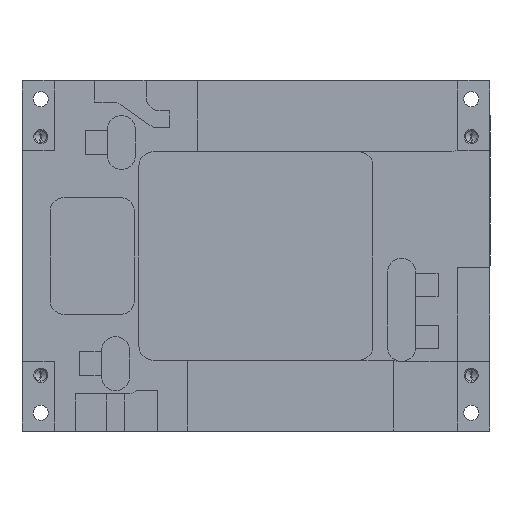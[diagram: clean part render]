
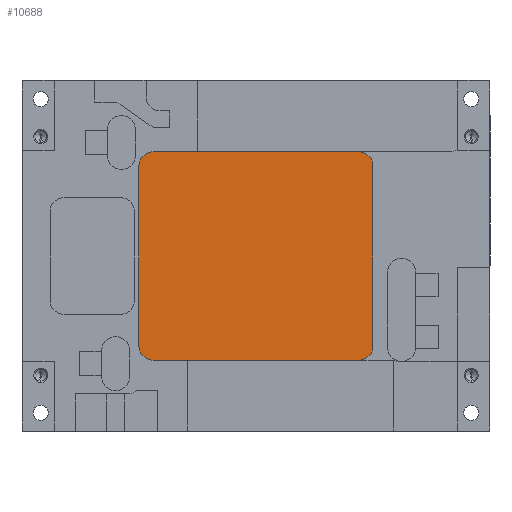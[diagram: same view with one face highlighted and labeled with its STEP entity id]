
A CAD part, left-side view. The second image highlights one B-rep face of the part: STEP entity #10688.
In plain terms, the highlighted planar face has unit normal (-1, 0, 0).
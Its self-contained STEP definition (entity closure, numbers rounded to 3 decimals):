
#4 = CARTESIAN_POINT ( 'NONE',  ( 4.01, 22., -22.25 ) ) ;
#42 = VERTEX_POINT ( 'NONE', #13604 ) ;
#60 = ORIENTED_EDGE ( 'NONE', *, *, #3748, .T. ) ;
#84 = VECTOR ( 'NONE', #10951, 1000. ) ;
#124 = EDGE_LOOP ( 'NONE', ( #510, #60, #10824, #11430, #18143, #17726, #8564, #6653 ) ) ;
#191 = CARTESIAN_POINT ( 'NONE',  ( 4.01, 25., 19.25 ) ) ;
#355 = EDGE_CURVE ( 'NONE', #7128, #18695, #5312, .T. ) ;
#510 = ORIENTED_EDGE ( 'NONE', *, *, #10940, .T. ) ;
#956 = CIRCLE ( 'NONE', #15590, 3. ) ;
#984 = CARTESIAN_POINT ( 'NONE',  ( 4.01, 25., -22.25 ) ) ;
#1902 = DIRECTION ( 'NONE',  ( -1., 0., 0. ) ) ;
#1960 = EDGE_CURVE ( 'NONE', #14066, #7128, #10593, .T. ) ;
#3083 = DIRECTION ( 'NONE',  ( 0., -1., 0. ) ) ;
#3455 = AXIS2_PLACEMENT_3D ( 'NONE', #6827, #18417, #18308 ) ;
#3475 = DIRECTION ( 'NONE',  ( 0., 0., 1. ) ) ;
#3625 = DIRECTION ( 'NONE',  ( -1., 0., 0. ) ) ;
#3748 = EDGE_CURVE ( 'NONE', #10258, #9734, #16595, .T. ) ;
#3941 = DIRECTION ( 'NONE',  ( -1., 0., 0. ) ) ;
#4466 = CARTESIAN_POINT ( 'NONE',  ( 4.01, 25., -19.25 ) ) ;
#4480 = EDGE_CURVE ( 'NONE', #9068, #42, #13569, .T. ) ;
#4645 = CARTESIAN_POINT ( 'NONE',  ( 4.01, -22., 22.25 ) ) ;
#5312 = LINE ( 'NONE', #984, #84 ) ;
#5693 = EDGE_CURVE ( 'NONE', #18695, #9068, #6147, .T. ) ;
#6147 = CIRCLE ( 'NONE', #8539, 3. ) ;
#6653 = ORIENTED_EDGE ( 'NONE', *, *, #15987, .T. ) ;
#6827 = CARTESIAN_POINT ( 'NONE',  ( 4.01, 0., 0. ) ) ;
#6872 = AXIS2_PLACEMENT_3D ( 'NONE', #10568, #3625, #13510 ) ;
#7128 = VERTEX_POINT ( 'NONE', #191 ) ;
#7165 = VECTOR ( 'NONE', #10525, 1000. ) ;
#8269 = PLANE ( 'NONE',  #3455 ) ;
#8539 = AXIS2_PLACEMENT_3D ( 'NONE', #9350, #13874, #18310 ) ;
#8564 = ORIENTED_EDGE ( 'NONE', *, *, #4480, .T. ) ;
#8765 = CARTESIAN_POINT ( 'NONE',  ( 4.01, -25., 19.25 ) ) ;
#9068 = VERTEX_POINT ( 'NONE', #4 ) ;
#9350 = CARTESIAN_POINT ( 'NONE',  ( 4.01, 22., -19.25 ) ) ;
#9734 = VERTEX_POINT ( 'NONE', #4645 ) ;
#10258 = VERTEX_POINT ( 'NONE', #8765 ) ;
#10525 = DIRECTION ( 'NONE',  ( 0., 0., 1. ) ) ;
#10568 = CARTESIAN_POINT ( 'NONE',  ( 4.01, 22., 19.25 ) ) ;
#10593 = CIRCLE ( 'NONE', #6872, 3. ) ;
#10688 = ADVANCED_FACE ( 'NONE', ( #17551 ), #8269, .T. ) ;
#10824 = ORIENTED_EDGE ( 'NONE', *, *, #15179, .T. ) ;
#10924 = VECTOR ( 'NONE', #17702, 1000. ) ;
#10940 = EDGE_CURVE ( 'NONE', #17148, #10258, #11373, .T. ) ;
#10951 = DIRECTION ( 'NONE',  ( 0., 0., -1. ) ) ;
#11373 = LINE ( 'NONE', #17697, #7165 ) ;
#11430 = ORIENTED_EDGE ( 'NONE', *, *, #1960, .T. ) ;
#11763 = AXIS2_PLACEMENT_3D ( 'NONE', #12514, #3941, #16774 ) ;
#12514 = CARTESIAN_POINT ( 'NONE',  ( 4.01, -22., 19.25 ) ) ;
#13077 = CARTESIAN_POINT ( 'NONE',  ( 4.01, 25., -22.25 ) ) ;
#13510 = DIRECTION ( 'NONE',  ( 0., 0., 1. ) ) ;
#13544 = CARTESIAN_POINT ( 'NONE',  ( 4.01, 25., 22.25 ) ) ;
#13569 = LINE ( 'NONE', #13077, #14285 ) ;
#13604 = CARTESIAN_POINT ( 'NONE',  ( 4.01, -22., -22.25 ) ) ;
#13874 = DIRECTION ( 'NONE',  ( -1., 0., 0. ) ) ;
#14066 = VERTEX_POINT ( 'NONE', #14221 ) ;
#14221 = CARTESIAN_POINT ( 'NONE',  ( 4.01, 22., 22.25 ) ) ;
#14278 = CARTESIAN_POINT ( 'NONE',  ( 4.01, -25., -19.25 ) ) ;
#14285 = VECTOR ( 'NONE', #3083, 1000. ) ;
#14557 = LINE ( 'NONE', #13544, #10924 ) ;
#15179 = EDGE_CURVE ( 'NONE', #9734, #14066, #14557, .T. ) ;
#15590 = AXIS2_PLACEMENT_3D ( 'NONE', #16416, #1902, #3475 ) ;
#15987 = EDGE_CURVE ( 'NONE', #42, #17148, #956, .T. ) ;
#16416 = CARTESIAN_POINT ( 'NONE',  ( 4.01, -22., -19.25 ) ) ;
#16595 = CIRCLE ( 'NONE', #11763, 3. ) ;
#16774 = DIRECTION ( 'NONE',  ( 0., 0., 1. ) ) ;
#17148 = VERTEX_POINT ( 'NONE', #14278 ) ;
#17551 = FACE_OUTER_BOUND ( 'NONE', #124, .T. ) ;
#17697 = CARTESIAN_POINT ( 'NONE',  ( 4.01, -25., -22.25 ) ) ;
#17702 = DIRECTION ( 'NONE',  ( 0., 1., 0. ) ) ;
#17726 = ORIENTED_EDGE ( 'NONE', *, *, #5693, .T. ) ;
#18143 = ORIENTED_EDGE ( 'NONE', *, *, #355, .T. ) ;
#18308 = DIRECTION ( 'NONE',  ( 0., 0., 1. ) ) ;
#18310 = DIRECTION ( 'NONE',  ( 0., 0., 1. ) ) ;
#18417 = DIRECTION ( 'NONE',  ( -1., 0., 0. ) ) ;
#18695 = VERTEX_POINT ( 'NONE', #4466 ) ;
